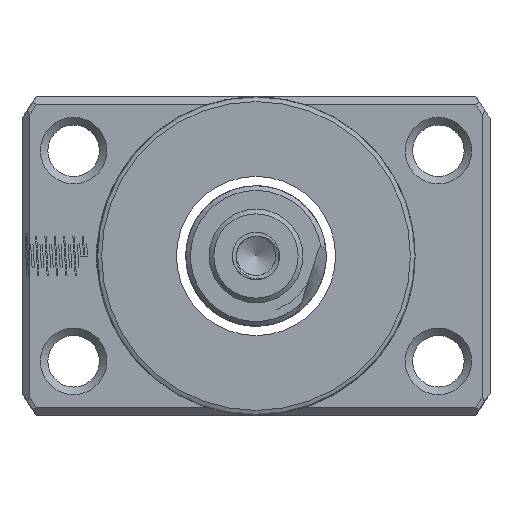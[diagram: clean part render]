
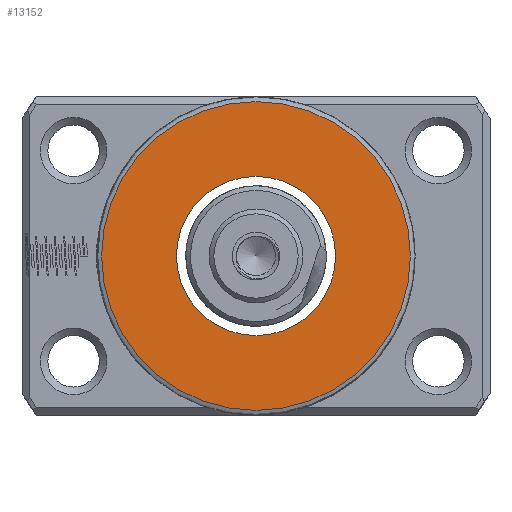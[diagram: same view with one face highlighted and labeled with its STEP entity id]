
A CAD part, left-side view. The second image highlights one B-rep face of the part: STEP entity #13152.
In plain terms, the highlighted planar face has unit normal (-1, 0, 0).
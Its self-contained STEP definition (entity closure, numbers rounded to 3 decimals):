
#1082 = DIRECTION ( 'NONE',  ( -1., 0., 0. ) ) ;
#2800 = DIRECTION ( 'NONE',  ( 0., 0., 1. ) ) ;
#3157 = ORIENTED_EDGE ( 'NONE', *, *, #18809, .T. ) ;
#3647 = DIRECTION ( 'NONE',  ( 0., 0., 1. ) ) ;
#5339 = AXIS2_PLACEMENT_3D ( 'NONE', #13212, #1082, #2800 ) ;
#5370 = DIRECTION ( 'NONE',  ( -1., 0., 0. ) ) ;
#5843 = VERTEX_POINT ( 'NONE', #6042 ) ;
#6042 = CARTESIAN_POINT ( 'NONE',  ( -53.324, 0., 8.5 ) ) ;
#6415 = EDGE_LOOP ( 'NONE', ( #3157 ) ) ;
#6573 = AXIS2_PLACEMENT_3D ( 'NONE', #8583, #5370, #3647 ) ;
#6709 = DIRECTION ( 'NONE',  ( -1., 0., 0. ) ) ;
#8583 = CARTESIAN_POINT ( 'NONE',  ( -53.324, 0., 0. ) ) ;
#9735 = CARTESIAN_POINT ( 'NONE',  ( -53.324, 0., 0. ) ) ;
#9837 = CIRCLE ( 'NONE', #16623, 8.5 ) ;
#10370 = FACE_OUTER_BOUND ( 'NONE', #6415, .T. ) ;
#10584 = VERTEX_POINT ( 'NONE', #16651 ) ;
#11888 = PLANE ( 'NONE',  #5339 ) ;
#12062 = CIRCLE ( 'NONE', #6573, 16.5 ) ;
#12870 = DIRECTION ( 'NONE',  ( 0., 0., 1. ) ) ;
#13152 = ADVANCED_FACE ( 'NONE', ( #10370, #19463 ), #11888, .T. ) ;
#13212 = CARTESIAN_POINT ( 'NONE',  ( -53.324, 8.5, 0. ) ) ;
#13866 = ORIENTED_EDGE ( 'NONE', *, *, #13912, .F. ) ;
#13912 = EDGE_CURVE ( 'NONE', #5843, #5843, #9837, .T. ) ;
#15195 = EDGE_LOOP ( 'NONE', ( #13866 ) ) ;
#16623 = AXIS2_PLACEMENT_3D ( 'NONE', #9735, #6709, #12870 ) ;
#16651 = CARTESIAN_POINT ( 'NONE',  ( -53.324, 0., 16.5 ) ) ;
#18809 = EDGE_CURVE ( 'NONE', #10584, #10584, #12062, .T. ) ;
#19463 = FACE_BOUND ( 'NONE', #15195, .T. ) ;
